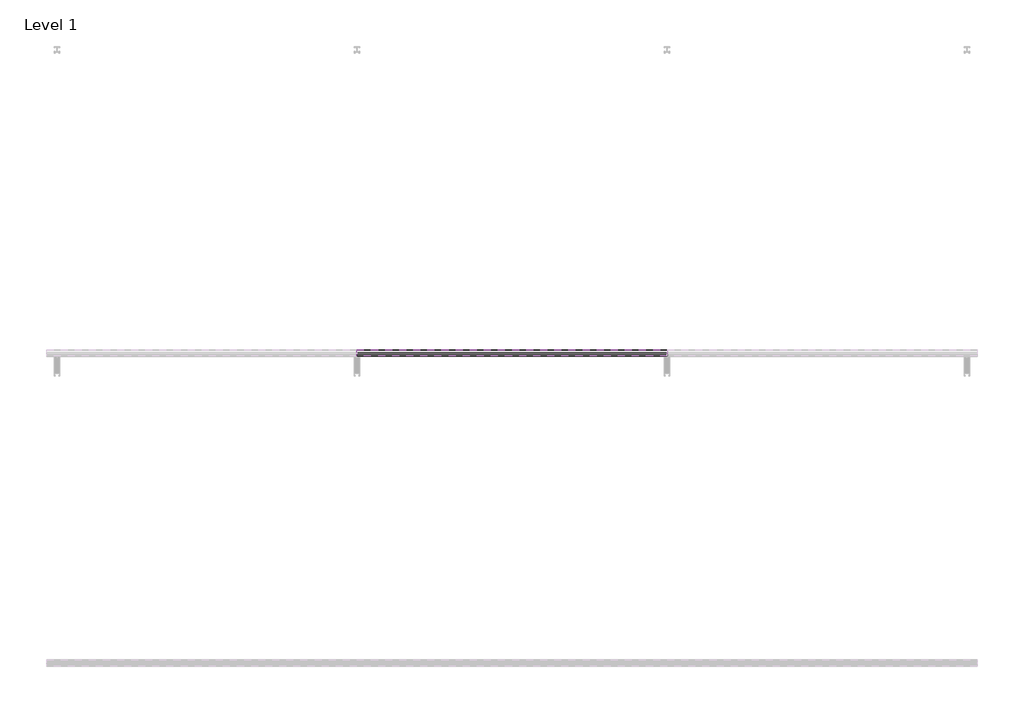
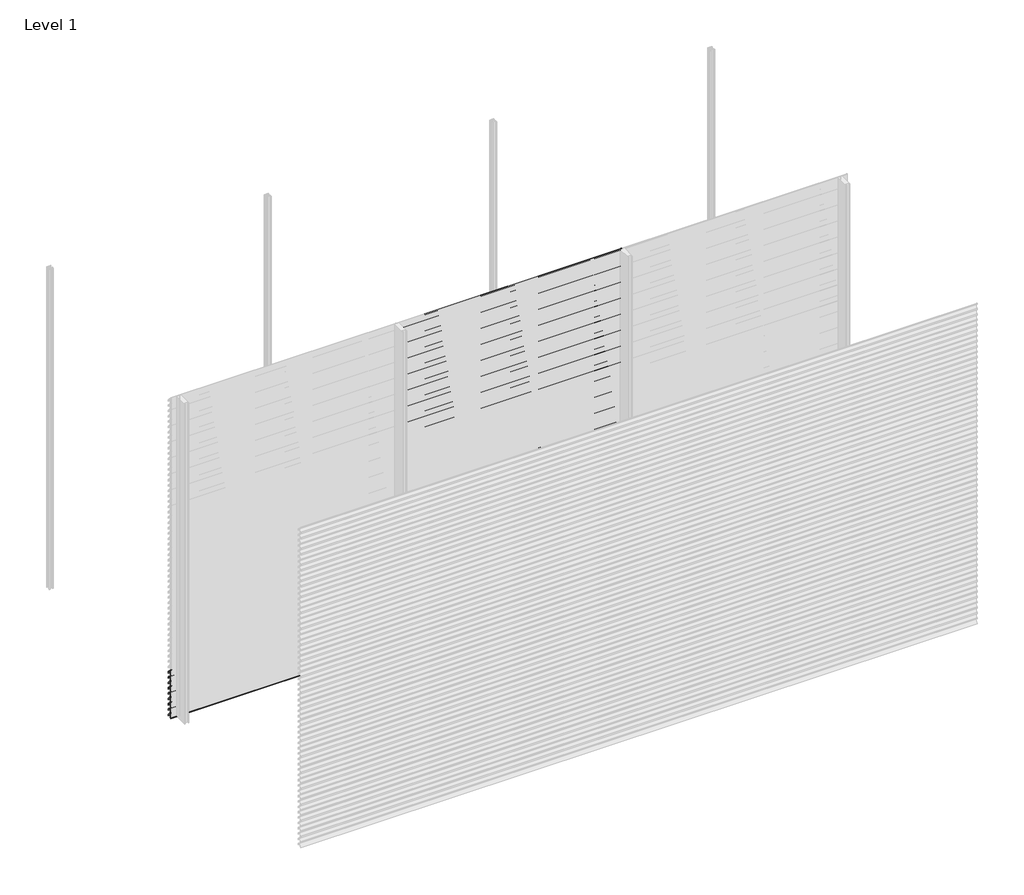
# One storey, part 8 of 38: 66 proxies.
"""IFC4 building model written with IfcOpenShell, lengths in millimetres."""

from ifc_helpers import new_model, si_unit, frame, origin, place, context, project, spatial, polyline, outline, extrude, element, save

model = new_model("IFC4")

# Units and contexts
model_context = context("Model", 3, world=origin())
ifc_project = project(units=[si_unit("LENGTHUNIT", "METRE", prefix="MILLI")], contexts=[model_context])

# Site, building, storey
site = spatial("IfcSite", under=ifc_project)
building = spatial("IfcBuilding", under=site)
storey = spatial("IfcBuildingStorey", under=building, Name="Level 1", Elevation=0.0)

# Proxies
placement = place(None, origin())
element("IfcBuildingElementProxy", 1, Name="Wall Sweeps", at=placement, inside=storey, context=model_context, shape_type="SweptSolid", body=[
    extrude(outline(polyline([(-47996.75, 450.0), (-47996.75, 439.19656), (-47974.6057113, 426.4115489), (-47957.0, 409.0472005), (-47957.0, 394.0472005), (-47958.3, 395.0268207), (-47958.3, 408.5034593), (-47969.4914725, 419.541504), (-47994.2797376, 390.0), (-47995.9767671, 390.0), (-47970.4200307, 420.4573323), (-47975.3999793, 425.3690091), (-47998.0, 438.4171371), (-47998.0, 450.0), (-47996.75, 450.0)])), frame((0.0, 0.0, 0.0), z_axis=(1.0, 0.0, 0.0), x_axis=(0.0, 1.0, 0.0)), (0.0, 0.0, 1.0), 2000.0),
])
element("IfcBuildingElementProxy", 2, Name="Wall Sweeps", at=placement, inside=storey, context=model_context, shape_type="SweptSolid", body=[
    extrude(outline(polyline([(-47996.75, 400.0), (-47996.75, 389.19656), (-47974.6057113, 376.4115489), (-47957.0, 359.0472005), (-47957.0, 344.0472005), (-47958.3, 345.0268207), (-47958.3, 358.5034593), (-47969.4914725, 369.541504), (-47994.2797376, 340.0), (-47995.9767671, 340.0), (-47970.4200307, 370.4573323), (-47975.3999793, 375.3690091), (-47998.0, 388.4171371), (-47998.0, 400.0), (-47996.75, 400.0)])), frame((0.0, 0.0, 0.0), z_axis=(1.0, 0.0, 0.0), x_axis=(0.0, 1.0, 0.0)), (0.0, 0.0, 1.0), 2000.0),
])
element("IfcBuildingElementProxy", 3, Name="Wall Sweeps", at=placement, inside=storey, context=model_context, shape_type="SweptSolid", body=[
    extrude(outline(polyline([(-47996.75, 350.0), (-47996.75, 339.19656), (-47974.6057113, 326.4115489), (-47957.0, 309.0472005), (-47957.0, 294.0472005), (-47958.3, 295.0268207), (-47958.3, 308.5034593), (-47969.4914725, 319.541504), (-47994.2797376, 290.0), (-47995.9767671, 290.0), (-47970.4200307, 320.4573323), (-47975.3999793, 325.3690091), (-47998.0, 338.4171371), (-47998.0, 350.0), (-47996.75, 350.0)])), frame((0.0, 0.0, 0.0), z_axis=(1.0, 0.0, 0.0), x_axis=(0.0, 1.0, 0.0)), (0.0, 0.0, 1.0), 2000.0),
])
element("IfcBuildingElementProxy", 4, Name="Wall Sweeps", at=placement, inside=storey, context=model_context, shape_type="SweptSolid", body=[
    extrude(outline(polyline([(-47996.75, 300.0), (-47996.75, 289.19656), (-47974.6057113, 276.4115489), (-47957.0, 259.0472005), (-47957.0, 244.0472005), (-47958.3, 245.0268207), (-47958.3, 258.5034593), (-47969.4914725, 269.541504), (-47994.2797376, 240.0), (-47995.9767671, 240.0), (-47970.4200307, 270.4573323), (-47975.3999793, 275.3690091), (-47998.0, 288.4171371), (-47998.0, 300.0), (-47996.75, 300.0)])), frame((0.0, 0.0, 0.0), z_axis=(1.0, 0.0, 0.0), x_axis=(0.0, 1.0, 0.0)), (0.0, 0.0, 1.0), 2000.0),
])
element("IfcBuildingElementProxy", 5, Name="Wall Sweeps", at=placement, inside=storey, context=model_context, shape_type="SweptSolid", body=[
    extrude(outline(polyline([(-47996.75, 250.0), (-47996.75, 239.19656), (-47974.6057113, 226.4115489), (-47957.0, 209.0472005), (-47957.0, 194.0472005), (-47958.3, 195.0268207), (-47958.3, 208.5034593), (-47969.4914725, 219.541504), (-47994.2797376, 190.0), (-47995.9767671, 190.0), (-47970.4200307, 220.4573323), (-47975.3999793, 225.3690091), (-47998.0, 238.4171371), (-47998.0, 250.0), (-47996.75, 250.0)])), frame((0.0, 0.0, 0.0), z_axis=(1.0, 0.0, 0.0), x_axis=(0.0, 1.0, 0.0)), (0.0, 0.0, 1.0), 2000.0),
])
element("IfcBuildingElementProxy", 6, Name="Wall Sweeps", at=placement, inside=storey, context=model_context, shape_type="SweptSolid", body=[
    extrude(outline(polyline([(-47996.75, 200.0), (-47996.75, 189.19656), (-47974.6057113, 176.4115489), (-47957.0, 159.0472005), (-47957.0, 144.0472005), (-47958.3, 145.0268207), (-47958.3, 158.5034593), (-47969.4914725, 169.541504), (-47994.2797376, 140.0), (-47995.9767671, 140.0), (-47970.4200307, 170.4573323), (-47975.3999793, 175.3690091), (-47998.0, 188.4171371), (-47998.0, 200.0), (-47996.75, 200.0)])), frame((0.0, 0.0, 0.0), z_axis=(1.0, 0.0, 0.0), x_axis=(0.0, 1.0, 0.0)), (0.0, 0.0, 1.0), 2000.0),
])
element("IfcBuildingElementProxy", 7, Name="Wall Sweeps", at=placement, inside=storey, context=model_context, shape_type="SweptSolid", body=[
    extrude(outline(polyline([(-47996.75, 150.0), (-47996.75, 139.19656), (-47974.6057113, 126.4115489), (-47957.0, 109.0472005), (-47957.0, 94.0472005), (-47958.3, 95.0268207), (-47958.3, 108.5034593), (-47969.4914725, 119.541504), (-47994.2797376, 90.0), (-47995.9767671, 90.0), (-47970.4200307, 120.4573323), (-47975.3999793, 125.3690091), (-47998.0, 138.4171371), (-47998.0, 150.0), (-47996.75, 150.0)])), frame((0.0, 0.0, 0.0), z_axis=(1.0, 0.0, 0.0), x_axis=(0.0, 1.0, 0.0)), (0.0, 0.0, 1.0), 2000.0),
])
element("IfcBuildingElementProxy", 8, Name="Wall Sweeps", at=placement, inside=storey, context=model_context, shape_type="SweptSolid", body=[
    extrude(outline(polyline([(-47996.75, 100.0), (-47996.75, 89.19656), (-47974.6057113, 76.4115489), (-47957.0, 59.0472005), (-47957.0, 44.0472005), (-47958.3, 45.0268207), (-47958.3, 58.5034593), (-47969.4914725, 69.541504), (-47994.2797376, 40.0), (-47995.9767671, 40.0), (-47970.4200307, 70.4573323), (-47975.3999793, 75.3690091), (-47998.0, 88.4171371), (-47998.0, 100.0), (-47996.75, 100.0)])), frame((0.0, 0.0, 0.0), z_axis=(1.0, 0.0, 0.0), x_axis=(0.0, 1.0, 0.0)), (0.0, 0.0, 1.0), 2000.0),
])
element("IfcBuildingElementProxy", 9, Name="Wall Sweeps", at=placement, inside=storey, context=model_context, shape_type="SweptSolid", body=[
    extrude(outline(polyline([(-47996.75, 50.0), (-47996.75, 39.19656), (-47974.6057113, 26.4115489), (-47957.0, 9.0472005), (-47957.0, -5.9527995), (-47958.3, -4.9731793), (-47958.3, 8.5034593), (-47969.4914725, 19.541504), (-47994.2797376, -10.0), (-47995.9767671, -10.0), (-47970.4200307, 20.4573323), (-47975.3999793, 25.3690091), (-47998.0, 38.4171371), (-47998.0, 50.0), (-47996.75, 50.0)])), frame((0.0, 0.0, 0.0), z_axis=(1.0, 0.0, 0.0), x_axis=(0.0, 1.0, 0.0)), (0.0, 0.0, 1.0), 2000.0),
])
element("IfcBuildingElementProxy", 10, Name="Wall Sweeps", at=placement, inside=storey, context=model_context, shape_type="SweptSolid", body=[
    extrude(outline(polyline([(-47996.75, 3000.0), (-47996.75, 2989.19656), (-47974.6057113, 2976.4115489), (-47957.0, 2959.0472005), (-47957.0, 2944.0472005), (-47958.3, 2945.0268207), (-47958.3, 2958.5034593), (-47969.4914725, 2969.541504), (-47994.2797376, 2940.0), (-47995.9767671, 2940.0), (-47970.4200307, 2970.4573323), (-47975.3999793, 2975.3690091), (-47998.0, 2988.4171371), (-47998.0, 3000.0), (-47996.75, 3000.0)])), frame((2000.0, 0.0, 0.0), z_axis=(1.0, 0.0, 0.0), x_axis=(0.0, 1.0, 0.0)), (0.0, 0.0, 1.0), 2000.0),
])
element("IfcBuildingElementProxy", 11, Name="Wall Sweeps", at=placement, inside=storey, context=model_context, shape_type="SweptSolid", body=[
    extrude(outline(polyline([(-47996.75, 2950.0), (-47996.75, 2939.19656), (-47974.6057113, 2926.4115489), (-47957.0, 2909.0472005), (-47957.0, 2894.0472005), (-47958.3, 2895.0268207), (-47958.3, 2908.5034593), (-47969.4914725, 2919.541504), (-47994.2797376, 2890.0), (-47995.9767671, 2890.0), (-47970.4200307, 2920.4573323), (-47975.3999793, 2925.3690091), (-47998.0, 2938.4171371), (-47998.0, 2950.0), (-47996.75, 2950.0)])), frame((2000.0, 0.0, 0.0), z_axis=(1.0, 0.0, 0.0), x_axis=(0.0, 1.0, 0.0)), (0.0, 0.0, 1.0), 2000.0),
])
element("IfcBuildingElementProxy", 12, Name="Wall Sweeps", at=placement, inside=storey, context=model_context, shape_type="SweptSolid", body=[
    extrude(outline(polyline([(-47996.75, 2900.0), (-47996.75, 2889.19656), (-47974.6057113, 2876.4115489), (-47957.0, 2859.0472005), (-47957.0, 2844.0472005), (-47958.3, 2845.0268207), (-47958.3, 2858.5034593), (-47969.4914725, 2869.541504), (-47994.2797376, 2840.0), (-47995.9767671, 2840.0), (-47970.4200307, 2870.4573323), (-47975.3999793, 2875.3690091), (-47998.0, 2888.4171371), (-47998.0, 2900.0), (-47996.75, 2900.0)])), frame((2000.0, 0.0, 0.0), z_axis=(1.0, 0.0, 0.0), x_axis=(0.0, 1.0, 0.0)), (0.0, 0.0, 1.0), 2000.0),
])
element("IfcBuildingElementProxy", 13, Name="Wall Sweeps", at=placement, inside=storey, context=model_context, shape_type="SweptSolid", body=[
    extrude(outline(polyline([(-47996.75, 2850.0), (-47996.75, 2839.19656), (-47974.6057113, 2826.4115489), (-47957.0, 2809.0472005), (-47957.0, 2794.0472005), (-47958.3, 2795.0268207), (-47958.3, 2808.5034593), (-47969.4914725, 2819.541504), (-47994.2797376, 2790.0), (-47995.9767671, 2790.0), (-47970.4200307, 2820.4573323), (-47975.3999793, 2825.3690091), (-47998.0, 2838.4171371), (-47998.0, 2850.0), (-47996.75, 2850.0)])), frame((2000.0, 0.0, 0.0), z_axis=(1.0, 0.0, 0.0), x_axis=(0.0, 1.0, 0.0)), (0.0, 0.0, 1.0), 2000.0),
])
element("IfcBuildingElementProxy", 14, Name="Wall Sweeps", at=placement, inside=storey, context=model_context, shape_type="SweptSolid", body=[
    extrude(outline(polyline([(-47996.75, 2800.0), (-47996.75, 2789.19656), (-47974.6057113, 2776.4115489), (-47957.0, 2759.0472005), (-47957.0, 2744.0472005), (-47958.3, 2745.0268207), (-47958.3, 2758.5034593), (-47969.4914725, 2769.541504), (-47994.2797376, 2740.0), (-47995.9767671, 2740.0), (-47970.4200307, 2770.4573323), (-47975.3999793, 2775.3690091), (-47998.0, 2788.4171371), (-47998.0, 2800.0), (-47996.75, 2800.0)])), frame((2000.0, 0.0, 0.0), z_axis=(1.0, 0.0, 0.0), x_axis=(0.0, 1.0, 0.0)), (0.0, 0.0, 1.0), 2000.0),
])
element("IfcBuildingElementProxy", 15, Name="Wall Sweeps", at=placement, inside=storey, context=model_context, shape_type="SweptSolid", body=[
    extrude(outline(polyline([(-47996.75, 2750.0), (-47996.75, 2739.19656), (-47974.6057113, 2726.4115489), (-47957.0, 2709.0472005), (-47957.0, 2694.0472005), (-47958.3, 2695.0268207), (-47958.3, 2708.5034593), (-47969.4914725, 2719.541504), (-47994.2797376, 2690.0), (-47995.9767671, 2690.0), (-47970.4200307, 2720.4573323), (-47975.3999793, 2725.3690091), (-47998.0, 2738.4171371), (-47998.0, 2750.0), (-47996.75, 2750.0)])), frame((2000.0, 0.0, 0.0), z_axis=(1.0, 0.0, 0.0), x_axis=(0.0, 1.0, 0.0)), (0.0, 0.0, 1.0), 2000.0),
])
element("IfcBuildingElementProxy", 16, Name="Wall Sweeps", at=placement, inside=storey, context=model_context, shape_type="SweptSolid", body=[
    extrude(outline(polyline([(-47996.75, 2700.0), (-47996.75, 2689.19656), (-47974.6057113, 2676.4115489), (-47957.0, 2659.0472005), (-47957.0, 2644.0472005), (-47958.3, 2645.0268207), (-47958.3, 2658.5034593), (-47969.4914725, 2669.541504), (-47994.2797376, 2640.0), (-47995.9767671, 2640.0), (-47970.4200307, 2670.4573323), (-47975.3999793, 2675.3690091), (-47998.0, 2688.4171371), (-47998.0, 2700.0), (-47996.75, 2700.0)])), frame((2000.0, 0.0, 0.0), z_axis=(1.0, 0.0, 0.0), x_axis=(0.0, 1.0, 0.0)), (0.0, 0.0, 1.0), 2000.0),
])
element("IfcBuildingElementProxy", 17, Name="Wall Sweeps", at=placement, inside=storey, context=model_context, shape_type="SweptSolid", body=[
    extrude(outline(polyline([(-47996.75, 2650.0), (-47996.75, 2639.19656), (-47974.6057113, 2626.4115489), (-47957.0, 2609.0472005), (-47957.0, 2594.0472005), (-47958.3, 2595.0268207), (-47958.3, 2608.5034593), (-47969.4914725, 2619.541504), (-47994.2797376, 2590.0), (-47995.9767671, 2590.0), (-47970.4200307, 2620.4573323), (-47975.3999793, 2625.3690091), (-47998.0, 2638.4171371), (-47998.0, 2650.0), (-47996.75, 2650.0)])), frame((2000.0, 0.0, 0.0), z_axis=(1.0, 0.0, 0.0), x_axis=(0.0, 1.0, 0.0)), (0.0, 0.0, 1.0), 2000.0),
])
element("IfcBuildingElementProxy", 18, Name="Wall Sweeps", at=placement, inside=storey, context=model_context, shape_type="SweptSolid", body=[
    extrude(outline(polyline([(-47996.75, 2600.0), (-47996.75, 2589.19656), (-47974.6057113, 2576.4115489), (-47957.0, 2559.0472005), (-47957.0, 2544.0472005), (-47958.3, 2545.0268207), (-47958.3, 2558.5034593), (-47969.4914725, 2569.541504), (-47994.2797376, 2540.0), (-47995.9767671, 2540.0), (-47970.4200307, 2570.4573323), (-47975.3999793, 2575.3690091), (-47998.0, 2588.4171371), (-47998.0, 2600.0), (-47996.75, 2600.0)])), frame((2000.0, 0.0, 0.0), z_axis=(1.0, 0.0, 0.0), x_axis=(0.0, 1.0, 0.0)), (0.0, 0.0, 1.0), 2000.0),
])
element("IfcBuildingElementProxy", 19, Name="Wall Sweeps", at=placement, inside=storey, context=model_context, shape_type="SweptSolid", body=[
    extrude(outline(polyline([(-47996.75, 2550.0), (-47996.75, 2539.19656), (-47974.6057113, 2526.4115489), (-47957.0, 2509.0472005), (-47957.0, 2494.0472005), (-47958.3, 2495.0268207), (-47958.3, 2508.5034593), (-47969.4914725, 2519.541504), (-47994.2797376, 2490.0), (-47995.9767671, 2490.0), (-47970.4200307, 2520.4573323), (-47975.3999793, 2525.3690091), (-47998.0, 2538.4171371), (-47998.0, 2550.0), (-47996.75, 2550.0)])), frame((2000.0, 0.0, 0.0), z_axis=(1.0, 0.0, 0.0), x_axis=(0.0, 1.0, 0.0)), (0.0, 0.0, 1.0), 2000.0),
])
element("IfcBuildingElementProxy", 20, Name="Wall Sweeps", at=placement, inside=storey, context=model_context, shape_type="SweptSolid", body=[
    extrude(outline(polyline([(-47996.75, 2500.0), (-47996.75, 2489.19656), (-47974.6057113, 2476.4115489), (-47957.0, 2459.0472005), (-47957.0, 2444.0472005), (-47958.3, 2445.0268207), (-47958.3, 2458.5034593), (-47969.4914725, 2469.541504), (-47994.2797376, 2440.0), (-47995.9767671, 2440.0), (-47970.4200307, 2470.4573323), (-47975.3999793, 2475.3690091), (-47998.0, 2488.4171371), (-47998.0, 2500.0), (-47996.75, 2500.0)])), frame((2000.0, 0.0, 0.0), z_axis=(1.0, 0.0, 0.0), x_axis=(0.0, 1.0, 0.0)), (0.0, 0.0, 1.0), 2000.0),
])
element("IfcBuildingElementProxy", 21, Name="Wall Sweeps", at=placement, inside=storey, context=model_context, shape_type="SweptSolid", body=[
    extrude(outline(polyline([(-47996.75, 2450.0), (-47996.75, 2439.19656), (-47974.6057113, 2426.4115489), (-47957.0, 2409.0472005), (-47957.0, 2394.0472005), (-47958.3, 2395.0268207), (-47958.3, 2408.5034593), (-47969.4914725, 2419.541504), (-47994.2797376, 2390.0), (-47995.9767671, 2390.0), (-47970.4200307, 2420.4573323), (-47975.3999793, 2425.3690091), (-47998.0, 2438.4171371), (-47998.0, 2450.0), (-47996.75, 2450.0)])), frame((2000.0, 0.0, 0.0), z_axis=(1.0, 0.0, 0.0), x_axis=(0.0, 1.0, 0.0)), (0.0, 0.0, 1.0), 2000.0),
])
element("IfcBuildingElementProxy", 22, Name="Wall Sweeps", at=placement, inside=storey, context=model_context, shape_type="SweptSolid", body=[
    extrude(outline(polyline([(-47996.75, 2400.0), (-47996.75, 2389.19656), (-47974.6057113, 2376.4115489), (-47957.0, 2359.0472005), (-47957.0, 2344.0472005), (-47958.3, 2345.0268207), (-47958.3, 2358.5034593), (-47969.4914725, 2369.541504), (-47994.2797376, 2340.0), (-47995.9767671, 2340.0), (-47970.4200307, 2370.4573323), (-47975.3999793, 2375.3690091), (-47998.0, 2388.4171371), (-47998.0, 2400.0), (-47996.75, 2400.0)])), frame((2000.0, 0.0, 0.0), z_axis=(1.0, 0.0, 0.0), x_axis=(0.0, 1.0, 0.0)), (0.0, 0.0, 1.0), 2000.0),
])
element("IfcBuildingElementProxy", 23, Name="Wall Sweeps", at=placement, inside=storey, context=model_context, shape_type="SweptSolid", body=[
    extrude(outline(polyline([(-47996.75, 2350.0), (-47996.75, 2339.19656), (-47974.6057113, 2326.4115489), (-47957.0, 2309.0472005), (-47957.0, 2294.0472005), (-47958.3, 2295.0268207), (-47958.3, 2308.5034593), (-47969.4914725, 2319.541504), (-47994.2797376, 2290.0), (-47995.9767671, 2290.0), (-47970.4200307, 2320.4573323), (-47975.3999793, 2325.3690091), (-47998.0, 2338.4171371), (-47998.0, 2350.0), (-47996.75, 2350.0)])), frame((2000.0, 0.0, 0.0), z_axis=(1.0, 0.0, 0.0), x_axis=(0.0, 1.0, 0.0)), (0.0, 0.0, 1.0), 2000.0),
])
element("IfcBuildingElementProxy", 24, Name="Wall Sweeps", at=placement, inside=storey, context=model_context, shape_type="SweptSolid", body=[
    extrude(outline(polyline([(-47996.75, 2300.0), (-47996.75, 2289.19656), (-47974.6057113, 2276.4115489), (-47957.0, 2259.0472005), (-47957.0, 2244.0472005), (-47958.3, 2245.0268207), (-47958.3, 2258.5034593), (-47969.4914725, 2269.541504), (-47994.2797376, 2240.0), (-47995.9767671, 2240.0), (-47970.4200307, 2270.4573323), (-47975.3999793, 2275.3690091), (-47998.0, 2288.4171371), (-47998.0, 2300.0), (-47996.75, 2300.0)])), frame((2000.0, 0.0, 0.0), z_axis=(1.0, 0.0, 0.0), x_axis=(0.0, 1.0, 0.0)), (0.0, 0.0, 1.0), 2000.0),
])
element("IfcBuildingElementProxy", 25, Name="Wall Sweeps", at=placement, inside=storey, context=model_context, shape_type="SweptSolid", body=[
    extrude(outline(polyline([(-47996.75, 2250.0), (-47996.75, 2239.19656), (-47974.6057113, 2226.4115489), (-47957.0, 2209.0472005), (-47957.0, 2194.0472005), (-47958.3, 2195.0268207), (-47958.3, 2208.5034593), (-47969.4914725, 2219.541504), (-47994.2797376, 2190.0), (-47995.9767671, 2190.0), (-47970.4200307, 2220.4573323), (-47975.3999793, 2225.3690091), (-47998.0, 2238.4171371), (-47998.0, 2250.0), (-47996.75, 2250.0)])), frame((2000.0, 0.0, 0.0), z_axis=(1.0, 0.0, 0.0), x_axis=(0.0, 1.0, 0.0)), (0.0, 0.0, 1.0), 2000.0),
])
element("IfcBuildingElementProxy", 26, Name="Wall Sweeps", at=placement, inside=storey, context=model_context, shape_type="SweptSolid", body=[
    extrude(outline(polyline([(-47996.75, 2200.0), (-47996.75, 2189.19656), (-47974.6057113, 2176.4115489), (-47957.0, 2159.0472005), (-47957.0, 2144.0472005), (-47958.3, 2145.0268207), (-47958.3, 2158.5034593), (-47969.4914725, 2169.541504), (-47994.2797376, 2140.0), (-47995.9767671, 2140.0), (-47970.4200307, 2170.4573323), (-47975.3999793, 2175.3690091), (-47998.0, 2188.4171371), (-47998.0, 2200.0), (-47996.75, 2200.0)])), frame((2000.0, 0.0, 0.0), z_axis=(1.0, 0.0, 0.0), x_axis=(0.0, 1.0, 0.0)), (0.0, 0.0, 1.0), 2000.0),
])
element("IfcBuildingElementProxy", 27, Name="Wall Sweeps", at=placement, inside=storey, context=model_context, shape_type="SweptSolid", body=[
    extrude(outline(polyline([(-47996.75, 2150.0), (-47996.75, 2139.19656), (-47974.6057113, 2126.4115489), (-47957.0, 2109.0472005), (-47957.0, 2094.0472005), (-47958.3, 2095.0268207), (-47958.3, 2108.5034593), (-47969.4914725, 2119.541504), (-47994.2797376, 2090.0), (-47995.9767671, 2090.0), (-47970.4200307, 2120.4573323), (-47975.3999793, 2125.3690091), (-47998.0, 2138.4171371), (-47998.0, 2150.0), (-47996.75, 2150.0)])), frame((2000.0, 0.0, 0.0), z_axis=(1.0, 0.0, 0.0), x_axis=(0.0, 1.0, 0.0)), (0.0, 0.0, 1.0), 2000.0),
])
element("IfcBuildingElementProxy", 28, Name="Wall Sweeps", at=placement, inside=storey, context=model_context, shape_type="SweptSolid", body=[
    extrude(outline(polyline([(-47996.75, 2100.0), (-47996.75, 2089.19656), (-47974.6057113, 2076.4115489), (-47957.0, 2059.0472005), (-47957.0, 2044.0472005), (-47958.3, 2045.0268207), (-47958.3, 2058.5034593), (-47969.4914725, 2069.541504), (-47994.2797376, 2040.0), (-47995.9767671, 2040.0), (-47970.4200307, 2070.4573323), (-47975.3999793, 2075.3690091), (-47998.0, 2088.4171371), (-47998.0, 2100.0), (-47996.75, 2100.0)])), frame((2000.0, 0.0, 0.0), z_axis=(1.0, 0.0, 0.0), x_axis=(0.0, 1.0, 0.0)), (0.0, 0.0, 1.0), 2000.0),
])
element("IfcBuildingElementProxy", 29, Name="Wall Sweeps", at=placement, inside=storey, context=model_context, shape_type="SweptSolid", body=[
    extrude(outline(polyline([(-47996.75, 2050.0), (-47996.75, 2039.19656), (-47974.6057113, 2026.4115489), (-47957.0, 2009.0472005), (-47957.0, 1994.0472005), (-47958.3, 1995.0268207), (-47958.3, 2008.5034593), (-47969.4914725, 2019.541504), (-47994.2797376, 1990.0), (-47995.9767671, 1990.0), (-47970.4200307, 2020.4573323), (-47975.3999793, 2025.3690091), (-47998.0, 2038.4171371), (-47998.0, 2050.0), (-47996.75, 2050.0)])), frame((2000.0, 0.0, 0.0), z_axis=(1.0, 0.0, 0.0), x_axis=(0.0, 1.0, 0.0)), (0.0, 0.0, 1.0), 2000.0),
])
element("IfcBuildingElementProxy", 30, Name="Wall Sweeps", at=placement, inside=storey, context=model_context, shape_type="SweptSolid", body=[
    extrude(outline(polyline([(-47996.75, 2000.0), (-47996.75, 1989.19656), (-47974.6057113, 1976.4115489), (-47957.0, 1959.0472005), (-47957.0, 1944.0472005), (-47958.3, 1945.0268207), (-47958.3, 1958.5034593), (-47969.4914725, 1969.541504), (-47994.2797376, 1940.0), (-47995.9767671, 1940.0), (-47970.4200307, 1970.4573323), (-47975.3999793, 1975.3690091), (-47998.0, 1988.4171371), (-47998.0, 2000.0), (-47996.75, 2000.0)])), frame((2000.0, 0.0, 0.0), z_axis=(1.0, 0.0, 0.0), x_axis=(0.0, 1.0, 0.0)), (0.0, 0.0, 1.0), 2000.0),
])
element("IfcBuildingElementProxy", 31, Name="Wall Sweeps", at=placement, inside=storey, context=model_context, shape_type="SweptSolid", body=[
    extrude(outline(polyline([(-47996.75, 1950.0), (-47996.75, 1939.19656), (-47974.6057113, 1926.4115489), (-47957.0, 1909.0472005), (-47957.0, 1894.0472005), (-47958.3, 1895.0268207), (-47958.3, 1908.5034593), (-47969.4914725, 1919.541504), (-47994.2797376, 1890.0), (-47995.9767671, 1890.0), (-47970.4200307, 1920.4573323), (-47975.3999793, 1925.3690091), (-47998.0, 1938.4171371), (-47998.0, 1950.0), (-47996.75, 1950.0)])), frame((2000.0, 0.0, 0.0), z_axis=(1.0, 0.0, 0.0), x_axis=(0.0, 1.0, 0.0)), (0.0, 0.0, 1.0), 2000.0),
])
element("IfcBuildingElementProxy", 32, Name="Wall Sweeps", at=placement, inside=storey, context=model_context, shape_type="SweptSolid", body=[
    extrude(outline(polyline([(-47996.75, 1900.0), (-47996.75, 1889.19656), (-47974.6057113, 1876.4115489), (-47957.0, 1859.0472005), (-47957.0, 1844.0472005), (-47958.3, 1845.0268207), (-47958.3, 1858.5034593), (-47969.4914725, 1869.541504), (-47994.2797376, 1840.0), (-47995.9767671, 1840.0), (-47970.4200307, 1870.4573323), (-47975.3999793, 1875.3690091), (-47998.0, 1888.4171371), (-47998.0, 1900.0), (-47996.75, 1900.0)])), frame((2000.0, 0.0, 0.0), z_axis=(1.0, 0.0, 0.0), x_axis=(0.0, 1.0, 0.0)), (0.0, 0.0, 1.0), 2000.0),
])
element("IfcBuildingElementProxy", 33, Name="Wall Sweeps", at=placement, inside=storey, context=model_context, shape_type="SweptSolid", body=[
    extrude(outline(polyline([(-47996.75, 1850.0), (-47996.75, 1839.19656), (-47974.6057113, 1826.4115489), (-47957.0, 1809.0472005), (-47957.0, 1794.0472005), (-47958.3, 1795.0268207), (-47958.3, 1808.5034593), (-47969.4914725, 1819.541504), (-47994.2797376, 1790.0), (-47995.9767671, 1790.0), (-47970.4200307, 1820.4573323), (-47975.3999793, 1825.3690091), (-47998.0, 1838.4171371), (-47998.0, 1850.0), (-47996.75, 1850.0)])), frame((2000.0, 0.0, 0.0), z_axis=(1.0, 0.0, 0.0), x_axis=(0.0, 1.0, 0.0)), (0.0, 0.0, 1.0), 2000.0),
])
element("IfcBuildingElementProxy", 34, Name="Wall Sweeps", at=placement, inside=storey, context=model_context, shape_type="SweptSolid", body=[
    extrude(outline(polyline([(-47996.75, 1800.0), (-47996.75, 1789.19656), (-47974.6057113, 1776.4115489), (-47957.0, 1759.0472005), (-47957.0, 1744.0472005), (-47958.3, 1745.0268207), (-47958.3, 1758.5034593), (-47969.4914725, 1769.541504), (-47994.2797376, 1740.0), (-47995.9767671, 1740.0), (-47970.4200307, 1770.4573323), (-47975.3999793, 1775.3690091), (-47998.0, 1788.4171371), (-47998.0, 1800.0), (-47996.75, 1800.0)])), frame((2000.0, 0.0, 0.0), z_axis=(1.0, 0.0, 0.0), x_axis=(0.0, 1.0, 0.0)), (0.0, 0.0, 1.0), 2000.0),
])
element("IfcBuildingElementProxy", 35, Name="Wall Sweeps", at=placement, inside=storey, context=model_context, shape_type="SweptSolid", body=[
    extrude(outline(polyline([(-47996.75, 1750.0), (-47996.75, 1739.19656), (-47974.6057113, 1726.4115489), (-47957.0, 1709.0472005), (-47957.0, 1694.0472005), (-47958.3, 1695.0268207), (-47958.3, 1708.5034593), (-47969.4914725, 1719.541504), (-47994.2797376, 1690.0), (-47995.9767671, 1690.0), (-47970.4200307, 1720.4573323), (-47975.3999793, 1725.3690091), (-47998.0, 1738.4171371), (-47998.0, 1750.0), (-47996.75, 1750.0)])), frame((2000.0, 0.0, 0.0), z_axis=(1.0, 0.0, 0.0), x_axis=(0.0, 1.0, 0.0)), (0.0, 0.0, 1.0), 2000.0),
])
element("IfcBuildingElementProxy", 36, Name="Wall Sweeps", at=placement, inside=storey, context=model_context, shape_type="SweptSolid", body=[
    extrude(outline(polyline([(-47996.75, 1700.0), (-47996.75, 1689.19656), (-47974.6057113, 1676.4115489), (-47957.0, 1659.0472005), (-47957.0, 1644.0472005), (-47958.3, 1645.0268207), (-47958.3, 1658.5034593), (-47969.4914725, 1669.541504), (-47994.2797376, 1640.0), (-47995.9767671, 1640.0), (-47970.4200307, 1670.4573323), (-47975.3999793, 1675.3690091), (-47998.0, 1688.4171371), (-47998.0, 1700.0), (-47996.75, 1700.0)])), frame((2000.0, 0.0, 0.0), z_axis=(1.0, 0.0, 0.0), x_axis=(0.0, 1.0, 0.0)), (0.0, 0.0, 1.0), 2000.0),
])
element("IfcBuildingElementProxy", 37, Name="Wall Sweeps", at=placement, inside=storey, context=model_context, shape_type="SweptSolid", body=[
    extrude(outline(polyline([(-47996.75, 1650.0), (-47996.75, 1639.19656), (-47974.6057113, 1626.4115489), (-47957.0, 1609.0472005), (-47957.0, 1594.0472005), (-47958.3, 1595.0268207), (-47958.3, 1608.5034593), (-47969.4914725, 1619.541504), (-47994.2797376, 1590.0), (-47995.9767671, 1590.0), (-47970.4200307, 1620.4573323), (-47975.3999793, 1625.3690091), (-47998.0, 1638.4171371), (-47998.0, 1650.0), (-47996.75, 1650.0)])), frame((2000.0, 0.0, 0.0), z_axis=(1.0, 0.0, 0.0), x_axis=(0.0, 1.0, 0.0)), (0.0, 0.0, 1.0), 2000.0),
])
element("IfcBuildingElementProxy", 38, Name="Wall Sweeps", at=placement, inside=storey, context=model_context, shape_type="SweptSolid", body=[
    extrude(outline(polyline([(-47996.75, 1600.0), (-47996.75, 1589.19656), (-47974.6057113, 1576.4115489), (-47957.0, 1559.0472005), (-47957.0, 1544.0472005), (-47958.3, 1545.0268207), (-47958.3, 1558.5034593), (-47969.4914725, 1569.541504), (-47994.2797376, 1540.0), (-47995.9767671, 1540.0), (-47970.4200307, 1570.4573323), (-47975.3999793, 1575.3690091), (-47998.0, 1588.4171371), (-47998.0, 1600.0), (-47996.75, 1600.0)])), frame((2000.0, 0.0, 0.0), z_axis=(1.0, 0.0, 0.0), x_axis=(0.0, 1.0, 0.0)), (0.0, 0.0, 1.0), 2000.0),
])
element("IfcBuildingElementProxy", 39, Name="Wall Sweeps", at=placement, inside=storey, context=model_context, shape_type="SweptSolid", body=[
    extrude(outline(polyline([(-47996.75, 1550.0), (-47996.75, 1539.19656), (-47974.6057113, 1526.4115489), (-47957.0, 1509.0472005), (-47957.0, 1494.0472005), (-47958.3, 1495.0268207), (-47958.3, 1508.5034593), (-47969.4914725, 1519.541504), (-47994.2797376, 1490.0), (-47995.9767671, 1490.0), (-47970.4200307, 1520.4573323), (-47975.3999793, 1525.3690091), (-47998.0, 1538.4171371), (-47998.0, 1550.0), (-47996.75, 1550.0)])), frame((2000.0, 0.0, 0.0), z_axis=(1.0, 0.0, 0.0), x_axis=(0.0, 1.0, 0.0)), (0.0, 0.0, 1.0), 2000.0),
])
element("IfcBuildingElementProxy", 40, Name="Wall Sweeps", at=placement, inside=storey, context=model_context, shape_type="SweptSolid", body=[
    extrude(outline(polyline([(-47996.75, 1500.0), (-47996.75, 1489.19656), (-47974.6057113, 1476.4115489), (-47957.0, 1459.0472005), (-47957.0, 1444.0472005), (-47958.3, 1445.0268207), (-47958.3, 1458.5034593), (-47969.4914725, 1469.541504), (-47994.2797376, 1440.0), (-47995.9767671, 1440.0), (-47970.4200307, 1470.4573323), (-47975.3999793, 1475.3690091), (-47998.0, 1488.4171371), (-47998.0, 1500.0), (-47996.75, 1500.0)])), frame((2000.0, 0.0, 0.0), z_axis=(1.0, 0.0, 0.0), x_axis=(0.0, 1.0, 0.0)), (0.0, 0.0, 1.0), 2000.0),
])
element("IfcBuildingElementProxy", 41, Name="Wall Sweeps", at=placement, inside=storey, context=model_context, shape_type="SweptSolid", body=[
    extrude(outline(polyline([(-47996.75, 1450.0), (-47996.75, 1439.19656), (-47974.6057113, 1426.4115489), (-47957.0, 1409.0472005), (-47957.0, 1394.0472005), (-47958.3, 1395.0268207), (-47958.3, 1408.5034593), (-47969.4914725, 1419.541504), (-47994.2797376, 1390.0), (-47995.9767671, 1390.0), (-47970.4200307, 1420.4573323), (-47975.3999793, 1425.3690091), (-47998.0, 1438.4171371), (-47998.0, 1450.0), (-47996.75, 1450.0)])), frame((2000.0, 0.0, 0.0), z_axis=(1.0, 0.0, 0.0), x_axis=(0.0, 1.0, 0.0)), (0.0, 0.0, 1.0), 2000.0),
])
element("IfcBuildingElementProxy", 42, Name="Wall Sweeps", at=placement, inside=storey, context=model_context, shape_type="SweptSolid", body=[
    extrude(outline(polyline([(-47996.75, 1400.0), (-47996.75, 1389.19656), (-47974.6057113, 1376.4115489), (-47957.0, 1359.0472005), (-47957.0, 1344.0472005), (-47958.3, 1345.0268207), (-47958.3, 1358.5034593), (-47969.4914725, 1369.541504), (-47994.2797376, 1340.0), (-47995.9767671, 1340.0), (-47970.4200307, 1370.4573323), (-47975.3999793, 1375.3690091), (-47998.0, 1388.4171371), (-47998.0, 1400.0), (-47996.75, 1400.0)])), frame((2000.0, 0.0, 0.0), z_axis=(1.0, 0.0, 0.0), x_axis=(0.0, 1.0, 0.0)), (0.0, 0.0, 1.0), 2000.0),
])
element("IfcBuildingElementProxy", 43, Name="Wall Sweeps", at=placement, inside=storey, context=model_context, shape_type="SweptSolid", body=[
    extrude(outline(polyline([(-47996.75, 1350.0), (-47996.75, 1339.19656), (-47974.6057113, 1326.4115489), (-47957.0, 1309.0472005), (-47957.0, 1294.0472005), (-47958.3, 1295.0268207), (-47958.3, 1308.5034593), (-47969.4914725, 1319.541504), (-47994.2797376, 1290.0), (-47995.9767671, 1290.0), (-47970.4200307, 1320.4573323), (-47975.3999793, 1325.3690091), (-47998.0, 1338.4171371), (-47998.0, 1350.0), (-47996.75, 1350.0)])), frame((2000.0, 0.0, 0.0), z_axis=(1.0, 0.0, 0.0), x_axis=(0.0, 1.0, 0.0)), (0.0, 0.0, 1.0), 2000.0),
])
element("IfcBuildingElementProxy", 44, Name="Wall Sweeps", at=placement, inside=storey, context=model_context, shape_type="SweptSolid", body=[
    extrude(outline(polyline([(-47996.75, 1300.0), (-47996.75, 1289.19656), (-47974.6057113, 1276.4115489), (-47957.0, 1259.0472005), (-47957.0, 1244.0472005), (-47958.3, 1245.0268207), (-47958.3, 1258.5034593), (-47969.4914725, 1269.541504), (-47994.2797376, 1240.0), (-47995.9767671, 1240.0), (-47970.4200307, 1270.4573323), (-47975.3999793, 1275.3690091), (-47998.0, 1288.4171371), (-47998.0, 1300.0), (-47996.75, 1300.0)])), frame((2000.0, 0.0, 0.0), z_axis=(1.0, 0.0, 0.0), x_axis=(0.0, 1.0, 0.0)), (0.0, 0.0, 1.0), 2000.0),
])
element("IfcBuildingElementProxy", 45, Name="Wall Sweeps", at=placement, inside=storey, context=model_context, shape_type="SweptSolid", body=[
    extrude(outline(polyline([(-47996.75, 1250.0), (-47996.75, 1239.19656), (-47974.6057113, 1226.4115489), (-47957.0, 1209.0472005), (-47957.0, 1194.0472005), (-47958.3, 1195.0268207), (-47958.3, 1208.5034593), (-47969.4914725, 1219.541504), (-47994.2797376, 1190.0), (-47995.9767671, 1190.0), (-47970.4200307, 1220.4573323), (-47975.3999793, 1225.3690091), (-47998.0, 1238.4171371), (-47998.0, 1250.0), (-47996.75, 1250.0)])), frame((2000.0, 0.0, 0.0), z_axis=(1.0, 0.0, 0.0), x_axis=(0.0, 1.0, 0.0)), (0.0, 0.0, 1.0), 2000.0),
])
element("IfcBuildingElementProxy", 46, Name="Wall Sweeps", at=placement, inside=storey, context=model_context, shape_type="SweptSolid", body=[
    extrude(outline(polyline([(-47996.75, 1200.0), (-47996.75, 1189.19656), (-47974.6057113, 1176.4115489), (-47957.0, 1159.0472005), (-47957.0, 1144.0472005), (-47958.3, 1145.0268207), (-47958.3, 1158.5034593), (-47969.4914725, 1169.541504), (-47994.2797376, 1140.0), (-47995.9767671, 1140.0), (-47970.4200307, 1170.4573323), (-47975.3999793, 1175.3690091), (-47998.0, 1188.4171371), (-47998.0, 1200.0), (-47996.75, 1200.0)])), frame((2000.0, 0.0, 0.0), z_axis=(1.0, 0.0, 0.0), x_axis=(0.0, 1.0, 0.0)), (0.0, 0.0, 1.0), 2000.0),
])
element("IfcBuildingElementProxy", 47, Name="Wall Sweeps", at=placement, inside=storey, context=model_context, shape_type="SweptSolid", body=[
    extrude(outline(polyline([(-47996.75, 1150.0), (-47996.75, 1139.19656), (-47974.6057113, 1126.4115489), (-47957.0, 1109.0472005), (-47957.0, 1094.0472005), (-47958.3, 1095.0268207), (-47958.3, 1108.5034593), (-47969.4914725, 1119.541504), (-47994.2797376, 1090.0), (-47995.9767671, 1090.0), (-47970.4200307, 1120.4573323), (-47975.3999793, 1125.3690091), (-47998.0, 1138.4171371), (-47998.0, 1150.0), (-47996.75, 1150.0)])), frame((2000.0, 0.0, 0.0), z_axis=(1.0, 0.0, 0.0), x_axis=(0.0, 1.0, 0.0)), (0.0, 0.0, 1.0), 2000.0),
])
element("IfcBuildingElementProxy", 48, Name="Wall Sweeps", at=placement, inside=storey, context=model_context, shape_type="SweptSolid", body=[
    extrude(outline(polyline([(-47996.75, 1100.0), (-47996.75, 1089.19656), (-47974.6057113, 1076.4115489), (-47957.0, 1059.0472005), (-47957.0, 1044.0472005), (-47958.3, 1045.0268207), (-47958.3, 1058.5034593), (-47969.4914725, 1069.541504), (-47994.2797376, 1040.0), (-47995.9767671, 1040.0), (-47970.4200307, 1070.4573323), (-47975.3999793, 1075.3690091), (-47998.0, 1088.4171371), (-47998.0, 1100.0), (-47996.75, 1100.0)])), frame((2000.0, 0.0, 0.0), z_axis=(1.0, 0.0, 0.0), x_axis=(0.0, 1.0, 0.0)), (0.0, 0.0, 1.0), 2000.0),
])
element("IfcBuildingElementProxy", 49, Name="Wall Sweeps", at=placement, inside=storey, context=model_context, shape_type="SweptSolid", body=[
    extrude(outline(polyline([(-47996.75, 1050.0), (-47996.75, 1039.19656), (-47974.6057113, 1026.4115489), (-47957.0, 1009.0472005), (-47957.0, 994.0472005), (-47958.3, 995.0268207), (-47958.3, 1008.5034593), (-47969.4914725, 1019.541504), (-47994.2797376, 990.0), (-47995.9767671, 990.0), (-47970.4200307, 1020.4573323), (-47975.3999793, 1025.3690091), (-47998.0, 1038.4171371), (-47998.0, 1050.0), (-47996.75, 1050.0)])), frame((2000.0, 0.0, 0.0), z_axis=(1.0, 0.0, 0.0), x_axis=(0.0, 1.0, 0.0)), (0.0, 0.0, 1.0), 2000.0),
])
element("IfcBuildingElementProxy", 50, Name="Wall Sweeps", at=placement, inside=storey, context=model_context, shape_type="SweptSolid", body=[
    extrude(outline(polyline([(-47996.75, 1000.0), (-47996.75, 989.19656), (-47974.6057113, 976.4115489), (-47957.0, 959.0472005), (-47957.0, 944.0472005), (-47958.3, 945.0268207), (-47958.3, 958.5034593), (-47969.4914725, 969.541504), (-47994.2797376, 940.0), (-47995.9767671, 940.0), (-47970.4200307, 970.4573323), (-47975.3999793, 975.3690091), (-47998.0, 988.4171371), (-47998.0, 1000.0), (-47996.75, 1000.0)])), frame((2000.0, 0.0, 0.0), z_axis=(1.0, 0.0, 0.0), x_axis=(0.0, 1.0, 0.0)), (0.0, 0.0, 1.0), 2000.0),
])
element("IfcBuildingElementProxy", 51, Name="Wall Sweeps", at=placement, inside=storey, context=model_context, shape_type="SweptSolid", body=[
    extrude(outline(polyline([(-47996.75, 950.0), (-47996.75, 939.19656), (-47974.6057113, 926.4115489), (-47957.0, 909.0472005), (-47957.0, 894.0472005), (-47958.3, 895.0268207), (-47958.3, 908.5034593), (-47969.4914725, 919.541504), (-47994.2797376, 890.0), (-47995.9767671, 890.0), (-47970.4200307, 920.4573323), (-47975.3999793, 925.3690091), (-47998.0, 938.4171371), (-47998.0, 950.0), (-47996.75, 950.0)])), frame((2000.0, 0.0, 0.0), z_axis=(1.0, 0.0, 0.0), x_axis=(0.0, 1.0, 0.0)), (0.0, 0.0, 1.0), 2000.0),
])
element("IfcBuildingElementProxy", 52, Name="Wall Sweeps", at=placement, inside=storey, context=model_context, shape_type="SweptSolid", body=[
    extrude(outline(polyline([(-47996.75, 900.0), (-47996.75, 889.19656), (-47974.6057113, 876.4115489), (-47957.0, 859.0472005), (-47957.0, 844.0472005), (-47958.3, 845.0268207), (-47958.3, 858.5034593), (-47969.4914725, 869.541504), (-47994.2797376, 840.0), (-47995.9767671, 840.0), (-47970.4200307, 870.4573323), (-47975.3999793, 875.3690091), (-47998.0, 888.4171371), (-47998.0, 900.0), (-47996.75, 900.0)])), frame((2000.0, 0.0, 0.0), z_axis=(1.0, 0.0, 0.0), x_axis=(0.0, 1.0, 0.0)), (0.0, 0.0, 1.0), 2000.0),
])
element("IfcBuildingElementProxy", 53, Name="Wall Sweeps", at=placement, inside=storey, context=model_context, shape_type="SweptSolid", body=[
    extrude(outline(polyline([(-47996.75, 850.0), (-47996.75, 839.19656), (-47974.6057113, 826.4115489), (-47957.0, 809.0472005), (-47957.0, 794.0472005), (-47958.3, 795.0268207), (-47958.3, 808.5034593), (-47969.4914725, 819.541504), (-47994.2797376, 790.0), (-47995.9767671, 790.0), (-47970.4200307, 820.4573323), (-47975.3999793, 825.3690091), (-47998.0, 838.4171371), (-47998.0, 850.0), (-47996.75, 850.0)])), frame((2000.0, 0.0, 0.0), z_axis=(1.0, 0.0, 0.0), x_axis=(0.0, 1.0, 0.0)), (0.0, 0.0, 1.0), 2000.0),
])
element("IfcBuildingElementProxy", 54, Name="Wall Sweeps", at=placement, inside=storey, context=model_context, shape_type="SweptSolid", body=[
    extrude(outline(polyline([(-47996.75, 800.0), (-47996.75, 789.19656), (-47974.6057113, 776.4115489), (-47957.0, 759.0472005), (-47957.0, 744.0472005), (-47958.3, 745.0268207), (-47958.3, 758.5034593), (-47969.4914725, 769.541504), (-47994.2797376, 740.0), (-47995.9767671, 740.0), (-47970.4200307, 770.4573323), (-47975.3999793, 775.3690091), (-47998.0, 788.4171371), (-47998.0, 800.0), (-47996.75, 800.0)])), frame((2000.0, 0.0, 0.0), z_axis=(1.0, 0.0, 0.0), x_axis=(0.0, 1.0, 0.0)), (0.0, 0.0, 1.0), 2000.0),
])
element("IfcBuildingElementProxy", 55, Name="Wall Sweeps", at=placement, inside=storey, context=model_context, shape_type="SweptSolid", body=[
    extrude(outline(polyline([(-47996.75, 750.0), (-47996.75, 739.19656), (-47974.6057113, 726.4115489), (-47957.0, 709.0472005), (-47957.0, 694.0472005), (-47958.3, 695.0268207), (-47958.3, 708.5034593), (-47969.4914725, 719.541504), (-47994.2797376, 690.0), (-47995.9767671, 690.0), (-47970.4200307, 720.4573323), (-47975.3999793, 725.3690091), (-47998.0, 738.4171371), (-47998.0, 750.0), (-47996.75, 750.0)])), frame((2000.0, 0.0, 0.0), z_axis=(1.0, 0.0, 0.0), x_axis=(0.0, 1.0, 0.0)), (0.0, 0.0, 1.0), 2000.0),
])
element("IfcBuildingElementProxy", 56, Name="Wall Sweeps", at=placement, inside=storey, context=model_context, shape_type="SweptSolid", body=[
    extrude(outline(polyline([(-47996.75, 700.0), (-47996.75, 689.19656), (-47974.6057113, 676.4115489), (-47957.0, 659.0472005), (-47957.0, 644.0472005), (-47958.3, 645.0268207), (-47958.3, 658.5034593), (-47969.4914725, 669.541504), (-47994.2797376, 640.0), (-47995.9767671, 640.0), (-47970.4200307, 670.4573323), (-47975.3999793, 675.3690091), (-47998.0, 688.4171371), (-47998.0, 700.0), (-47996.75, 700.0)])), frame((2000.0, 0.0, 0.0), z_axis=(1.0, 0.0, 0.0), x_axis=(0.0, 1.0, 0.0)), (0.0, 0.0, 1.0), 2000.0),
])
element("IfcBuildingElementProxy", 57, Name="Wall Sweeps", at=placement, inside=storey, context=model_context, shape_type="SweptSolid", body=[
    extrude(outline(polyline([(-47996.75, 650.0), (-47996.75, 639.19656), (-47974.6057113, 626.4115489), (-47957.0, 609.0472005), (-47957.0, 594.0472005), (-47958.3, 595.0268207), (-47958.3, 608.5034593), (-47969.4914725, 619.541504), (-47994.2797376, 590.0), (-47995.9767671, 590.0), (-47970.4200307, 620.4573323), (-47975.3999793, 625.3690091), (-47998.0, 638.4171371), (-47998.0, 650.0), (-47996.75, 650.0)])), frame((2000.0, 0.0, 0.0), z_axis=(1.0, 0.0, 0.0), x_axis=(0.0, 1.0, 0.0)), (0.0, 0.0, 1.0), 2000.0),
])
element("IfcBuildingElementProxy", 58, Name="Wall Sweeps", at=placement, inside=storey, context=model_context, shape_type="SweptSolid", body=[
    extrude(outline(polyline([(-47996.75, 600.0), (-47996.75, 589.19656), (-47974.6057113, 576.4115489), (-47957.0, 559.0472005), (-47957.0, 544.0472005), (-47958.3, 545.0268207), (-47958.3, 558.5034593), (-47969.4914725, 569.541504), (-47994.2797376, 540.0), (-47995.9767671, 540.0), (-47970.4200307, 570.4573323), (-47975.3999793, 575.3690091), (-47998.0, 588.4171371), (-47998.0, 600.0), (-47996.75, 600.0)])), frame((2000.0, 0.0, 0.0), z_axis=(1.0, 0.0, 0.0), x_axis=(0.0, 1.0, 0.0)), (0.0, 0.0, 1.0), 2000.0),
])
element("IfcBuildingElementProxy", 59, Name="Wall Sweeps", at=placement, inside=storey, context=model_context, shape_type="SweptSolid", body=[
    extrude(outline(polyline([(-47996.75, 550.0), (-47996.75, 539.19656), (-47974.6057113, 526.4115489), (-47957.0, 509.0472005), (-47957.0, 494.0472005), (-47958.3, 495.0268207), (-47958.3, 508.5034593), (-47969.4914725, 519.541504), (-47994.2797376, 490.0), (-47995.9767671, 490.0), (-47970.4200307, 520.4573323), (-47975.3999793, 525.3690091), (-47998.0, 538.4171371), (-47998.0, 550.0), (-47996.75, 550.0)])), frame((2000.0, 0.0, 0.0), z_axis=(1.0, 0.0, 0.0), x_axis=(0.0, 1.0, 0.0)), (0.0, 0.0, 1.0), 2000.0),
])
element("IfcBuildingElementProxy", 60, Name="Wall Sweeps", at=placement, inside=storey, context=model_context, shape_type="SweptSolid", body=[
    extrude(outline(polyline([(-47996.75, 500.0), (-47996.75, 489.19656), (-47974.6057113, 476.4115489), (-47957.0, 459.0472005), (-47957.0, 444.0472005), (-47958.3, 445.0268207), (-47958.3, 458.5034593), (-47969.4914725, 469.541504), (-47994.2797376, 440.0), (-47995.9767671, 440.0), (-47970.4200307, 470.4573323), (-47975.3999793, 475.3690091), (-47998.0, 488.4171371), (-47998.0, 500.0), (-47996.75, 500.0)])), frame((2000.0, 0.0, 0.0), z_axis=(1.0, 0.0, 0.0), x_axis=(0.0, 1.0, 0.0)), (0.0, 0.0, 1.0), 2000.0),
])
element("IfcBuildingElementProxy", 61, Name="Wall Sweeps", at=placement, inside=storey, context=model_context, shape_type="SweptSolid", body=[
    extrude(outline(polyline([(-47996.75, 450.0), (-47996.75, 439.19656), (-47974.6057113, 426.4115489), (-47957.0, 409.0472005), (-47957.0, 394.0472005), (-47958.3, 395.0268207), (-47958.3, 408.5034593), (-47969.4914725, 419.541504), (-47994.2797376, 390.0), (-47995.9767671, 390.0), (-47970.4200307, 420.4573323), (-47975.3999793, 425.3690091), (-47998.0, 438.4171371), (-47998.0, 450.0), (-47996.75, 450.0)])), frame((2000.0, 0.0, 0.0), z_axis=(1.0, 0.0, 0.0), x_axis=(0.0, 1.0, 0.0)), (0.0, 0.0, 1.0), 2000.0),
])
element("IfcBuildingElementProxy", 62, Name="Wall Sweeps", at=placement, inside=storey, context=model_context, shape_type="SweptSolid", body=[
    extrude(outline(polyline([(-47996.75, 400.0), (-47996.75, 389.19656), (-47974.6057113, 376.4115489), (-47957.0, 359.0472005), (-47957.0, 344.0472005), (-47958.3, 345.0268207), (-47958.3, 358.5034593), (-47969.4914725, 369.541504), (-47994.2797376, 340.0), (-47995.9767671, 340.0), (-47970.4200307, 370.4573323), (-47975.3999793, 375.3690091), (-47998.0, 388.4171371), (-47998.0, 400.0), (-47996.75, 400.0)])), frame((2000.0, 0.0, 0.0), z_axis=(1.0, 0.0, 0.0), x_axis=(0.0, 1.0, 0.0)), (0.0, 0.0, 1.0), 2000.0),
])
element("IfcBuildingElementProxy", 63, Name="Wall Sweeps", at=placement, inside=storey, context=model_context, shape_type="SweptSolid", body=[
    extrude(outline(polyline([(-47996.75, 350.0), (-47996.75, 339.19656), (-47974.6057113, 326.4115489), (-47957.0, 309.0472005), (-47957.0, 294.0472005), (-47958.3, 295.0268207), (-47958.3, 308.5034593), (-47969.4914725, 319.541504), (-47994.2797376, 290.0), (-47995.9767671, 290.0), (-47970.4200307, 320.4573323), (-47975.3999793, 325.3690091), (-47998.0, 338.4171371), (-47998.0, 350.0), (-47996.75, 350.0)])), frame((2000.0, 0.0, 0.0), z_axis=(1.0, 0.0, 0.0), x_axis=(0.0, 1.0, 0.0)), (0.0, 0.0, 1.0), 2000.0),
])
element("IfcBuildingElementProxy", 64, Name="Wall Sweeps", at=placement, inside=storey, context=model_context, shape_type="SweptSolid", body=[
    extrude(outline(polyline([(-47996.75, 300.0), (-47996.75, 289.19656), (-47974.6057113, 276.4115489), (-47957.0, 259.0472005), (-47957.0, 244.0472005), (-47958.3, 245.0268207), (-47958.3, 258.5034593), (-47969.4914725, 269.541504), (-47994.2797376, 240.0), (-47995.9767671, 240.0), (-47970.4200307, 270.4573323), (-47975.3999793, 275.3690091), (-47998.0, 288.4171371), (-47998.0, 300.0), (-47996.75, 300.0)])), frame((2000.0, 0.0, 0.0), z_axis=(1.0, 0.0, 0.0), x_axis=(0.0, 1.0, 0.0)), (0.0, 0.0, 1.0), 2000.0),
])
element("IfcBuildingElementProxy", 65, Name="Wall Sweeps", at=placement, inside=storey, context=model_context, shape_type="SweptSolid", body=[
    extrude(outline(polyline([(-47996.75, 250.0), (-47996.75, 239.19656), (-47974.6057113, 226.4115489), (-47957.0, 209.0472005), (-47957.0, 194.0472005), (-47958.3, 195.0268207), (-47958.3, 208.5034593), (-47969.4914725, 219.541504), (-47994.2797376, 190.0), (-47995.9767671, 190.0), (-47970.4200307, 220.4573323), (-47975.3999793, 225.3690091), (-47998.0, 238.4171371), (-47998.0, 250.0), (-47996.75, 250.0)])), frame((2000.0, 0.0, 0.0), z_axis=(1.0, 0.0, 0.0), x_axis=(0.0, 1.0, 0.0)), (0.0, 0.0, 1.0), 2000.0),
])
element("IfcBuildingElementProxy", 66, Name="Wall Sweeps", at=placement, inside=storey, context=model_context, shape_type="SweptSolid", body=[
    extrude(outline(polyline([(-47996.75, 200.0), (-47996.75, 189.19656), (-47974.6057113, 176.4115489), (-47957.0, 159.0472005), (-47957.0, 144.0472005), (-47958.3, 145.0268207), (-47958.3, 158.5034593), (-47969.4914725, 169.541504), (-47994.2797376, 140.0), (-47995.9767671, 140.0), (-47970.4200307, 170.4573323), (-47975.3999793, 175.3690091), (-47998.0, 188.4171371), (-47998.0, 200.0), (-47996.75, 200.0)])), frame((2000.0, 0.0, 0.0), z_axis=(1.0, 0.0, 0.0), x_axis=(0.0, 1.0, 0.0)), (0.0, 0.0, 1.0), 2000.0),
])

save(model, "model.ifc")
